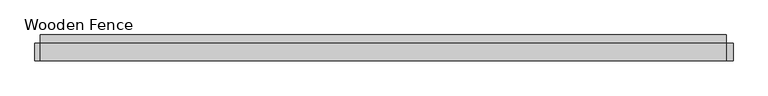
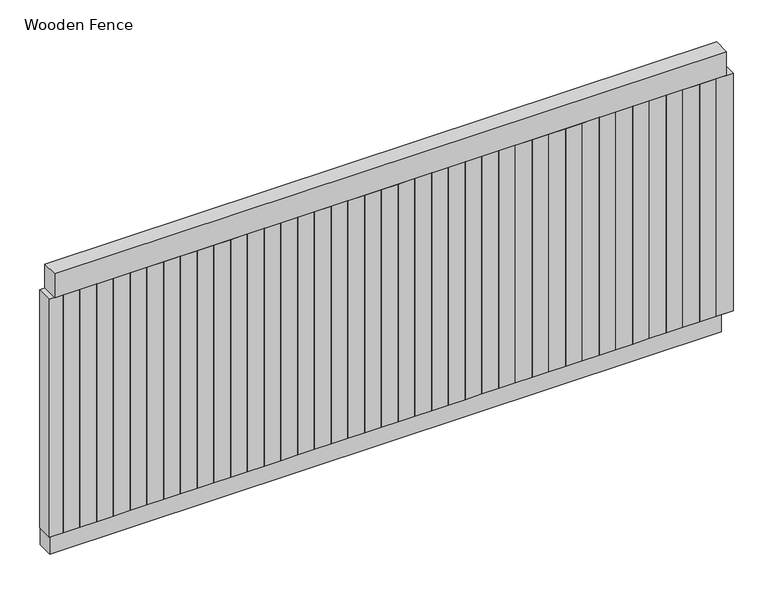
"""IFC4 building model written with IfcOpenShell, lengths in millimetres: railing geometry, Wooden Fence."""

from ifc_helpers import new_model, si_unit, frame, origin, place, context, project, spatial, polyline, outline, extrude, source, transform, mapped, element, save


def wooden_fence_12f1ab6c(model_context):
    return source(origin(), model_context, "Body", "SweptSolid", [
        extrude(outline(polyline([(8327.8839708, 3382.9935985), (8327.8839708, 3433.7935985), (10364.6464708, 3433.7935985), (10364.6464708, 3382.9935985), (8327.8839708, 3382.9935985)])), frame((0.0, 0.0, -50.8), z_axis=(0.0, 0.0, 1.0), x_axis=(1.0, 0.0, 0.0)), (0.0, 0.0, 1.0), 76.2),
        extrude(outline(polyline([(8327.8839708, 3357.5935985), (8327.8839708, 3408.3935985), (10364.6464708, 3408.3935985), (10364.6464708, 3357.5935985), (8327.8839708, 3357.5935985)])), frame((0.0, 0.0, 787.4), z_axis=(0.0, 0.0, 1.0), x_axis=(1.0, 0.0, 0.0)), (0.0, 0.0, 1.0), 76.2),
        extrude(outline(polyline([(10334.4839708, 3357.5935985), (10334.4839708, 3408.3935985), (10385.2839708, 3408.3935985), (10385.2839708, 3357.5935985), (10334.4839708, 3357.5935985)])), frame((0.0, 0.0, 25.4), z_axis=(0.0, 0.0, 1.0), x_axis=(1.0, 0.0, 0.0)), (0.0, 0.0, 1.0), 762.0),
        extrude(outline(polyline([(10283.6839708, 3357.5935985), (10283.6839708, 3408.3935985), (10334.4839708, 3408.3935985), (10334.4839708, 3357.5935985), (10283.6839708, 3357.5935985)])), frame((0.0, 0.0, 25.4), z_axis=(0.0, 0.0, 1.0), x_axis=(1.0, 0.0, 0.0)), (0.0, 0.0, 1.0), 762.0),
        extrude(outline(polyline([(10232.8839708, 3357.5935985), (10232.8839708, 3408.3935985), (10283.6839708, 3408.3935985), (10283.6839708, 3357.5935985), (10232.8839708, 3357.5935985)])), frame((0.0, 0.0, 25.4), z_axis=(0.0, 0.0, 1.0), x_axis=(1.0, 0.0, 0.0)), (0.0, 0.0, 1.0), 762.0),
        extrude(outline(polyline([(10182.0839708, 3357.5935985), (10182.0839708, 3408.3935985), (10232.8839708, 3408.3935985), (10232.8839708, 3357.5935985), (10182.0839708, 3357.5935985)])), frame((0.0, 0.0, 25.4), z_axis=(0.0, 0.0, 1.0), x_axis=(1.0, 0.0, 0.0)), (0.0, 0.0, 1.0), 762.0),
        extrude(outline(polyline([(10131.2839708, 3357.5935985), (10131.2839708, 3408.3935985), (10182.0839708, 3408.3935985), (10182.0839708, 3357.5935985), (10131.2839708, 3357.5935985)])), frame((0.0, 0.0, 25.4), z_axis=(0.0, 0.0, 1.0), x_axis=(1.0, 0.0, 0.0)), (0.0, 0.0, 1.0), 762.0),
        extrude(outline(polyline([(10080.4839708, 3357.5935985), (10080.4839708, 3408.3935985), (10131.2839708, 3408.3935985), (10131.2839708, 3357.5935985), (10080.4839708, 3357.5935985)])), frame((0.0, 0.0, 25.4), z_axis=(0.0, 0.0, 1.0), x_axis=(1.0, 0.0, 0.0)), (0.0, 0.0, 1.0), 762.0),
        extrude(outline(polyline([(10029.6839708, 3357.5935985), (10029.6839708, 3408.3935985), (10080.4839708, 3408.3935985), (10080.4839708, 3357.5935985), (10029.6839708, 3357.5935985)])), frame((0.0, 0.0, 25.4), z_axis=(0.0, 0.0, 1.0), x_axis=(1.0, 0.0, 0.0)), (0.0, 0.0, 1.0), 762.0),
        extrude(outline(polyline([(9978.8839708, 3357.5935985), (9978.8839708, 3408.3935985), (10029.6839708, 3408.3935985), (10029.6839708, 3357.5935985), (9978.8839708, 3357.5935985)])), frame((0.0, 0.0, 25.4), z_axis=(0.0, 0.0, 1.0), x_axis=(1.0, 0.0, 0.0)), (0.0, 0.0, 1.0), 762.0),
        extrude(outline(polyline([(9928.0839708, 3357.5935985), (9928.0839708, 3408.3935985), (9978.8839708, 3408.3935985), (9978.8839708, 3357.5935985), (9928.0839708, 3357.5935985)])), frame((0.0, 0.0, 25.4), z_axis=(0.0, 0.0, 1.0), x_axis=(1.0, 0.0, 0.0)), (0.0, 0.0, 1.0), 762.0),
        extrude(outline(polyline([(9877.2839708, 3357.5935985), (9877.2839708, 3408.3935985), (9928.0839708, 3408.3935985), (9928.0839708, 3357.5935985), (9877.2839708, 3357.5935985)])), frame((0.0, 0.0, 25.4), z_axis=(0.0, 0.0, 1.0), x_axis=(1.0, 0.0, 0.0)), (0.0, 0.0, 1.0), 762.0),
        extrude(outline(polyline([(9826.4839708, 3357.5935985), (9826.4839708, 3408.3935985), (9877.2839708, 3408.3935985), (9877.2839708, 3357.5935985), (9826.4839708, 3357.5935985)])), frame((0.0, 0.0, 25.4), z_axis=(0.0, 0.0, 1.0), x_axis=(1.0, 0.0, 0.0)), (0.0, 0.0, 1.0), 762.0),
        extrude(outline(polyline([(9775.6839708, 3357.5935985), (9775.6839708, 3408.3935985), (9826.4839708, 3408.3935985), (9826.4839708, 3357.5935985), (9775.6839708, 3357.5935985)])), frame((0.0, 0.0, 25.4), z_axis=(0.0, 0.0, 1.0), x_axis=(1.0, 0.0, 0.0)), (0.0, 0.0, 1.0), 762.0),
        extrude(outline(polyline([(9724.8839708, 3357.5935985), (9724.8839708, 3408.3935985), (9775.6839708, 3408.3935985), (9775.6839708, 3357.5935985), (9724.8839708, 3357.5935985)])), frame((0.0, 0.0, 25.4), z_axis=(0.0, 0.0, 1.0), x_axis=(1.0, 0.0, 0.0)), (0.0, 0.0, 1.0), 762.0),
        extrude(outline(polyline([(9674.0839708, 3357.5935985), (9674.0839708, 3408.3935985), (9724.8839708, 3408.3935985), (9724.8839708, 3357.5935985), (9674.0839708, 3357.5935985)])), frame((0.0, 0.0, 25.4), z_axis=(0.0, 0.0, 1.0), x_axis=(1.0, 0.0, 0.0)), (0.0, 0.0, 1.0), 762.0),
        extrude(outline(polyline([(9623.2839708, 3357.5935985), (9623.2839708, 3408.3935985), (9674.0839708, 3408.3935985), (9674.0839708, 3357.5935985), (9623.2839708, 3357.5935985)])), frame((0.0, 0.0, 25.4), z_axis=(0.0, 0.0, 1.0), x_axis=(1.0, 0.0, 0.0)), (0.0, 0.0, 1.0), 762.0),
        extrude(outline(polyline([(9572.4839708, 3357.5935985), (9572.4839708, 3408.3935985), (9623.2839708, 3408.3935985), (9623.2839708, 3357.5935985), (9572.4839708, 3357.5935985)])), frame((0.0, 0.0, 25.4), z_axis=(0.0, 0.0, 1.0), x_axis=(1.0, 0.0, 0.0)), (0.0, 0.0, 1.0), 762.0),
        extrude(outline(polyline([(9521.6839708, 3357.5935985), (9521.6839708, 3408.3935985), (9572.4839708, 3408.3935985), (9572.4839708, 3357.5935985), (9521.6839708, 3357.5935985)])), frame((0.0, 0.0, 25.4), z_axis=(0.0, 0.0, 1.0), x_axis=(1.0, 0.0, 0.0)), (0.0, 0.0, 1.0), 762.0),
        extrude(outline(polyline([(9470.8839708, 3357.5935985), (9470.8839708, 3408.3935985), (9521.6839708, 3408.3935985), (9521.6839708, 3357.5935985), (9470.8839708, 3357.5935985)])), frame((0.0, 0.0, 25.4), z_axis=(0.0, 0.0, 1.0), x_axis=(1.0, 0.0, 0.0)), (0.0, 0.0, 1.0), 762.0),
        extrude(outline(polyline([(9420.0839708, 3357.5935985), (9420.0839708, 3408.3935985), (9470.8839708, 3408.3935985), (9470.8839708, 3357.5935985), (9420.0839708, 3357.5935985)])), frame((0.0, 0.0, 25.4), z_axis=(0.0, 0.0, 1.0), x_axis=(1.0, 0.0, 0.0)), (0.0, 0.0, 1.0), 762.0),
        extrude(outline(polyline([(9369.2839708, 3357.5935985), (9369.2839708, 3408.3935985), (9420.0839708, 3408.3935985), (9420.0839708, 3357.5935985), (9369.2839708, 3357.5935985)])), frame((0.0, 0.0, 25.4), z_axis=(0.0, 0.0, 1.0), x_axis=(1.0, 0.0, 0.0)), (0.0, 0.0, 1.0), 762.0),
        extrude(outline(polyline([(9318.4839708, 3357.5935985), (9318.4839708, 3408.3935985), (9369.2839708, 3408.3935985), (9369.2839708, 3357.5935985), (9318.4839708, 3357.5935985)])), frame((0.0, 0.0, 25.4), z_axis=(0.0, 0.0, 1.0), x_axis=(1.0, 0.0, 0.0)), (0.0, 0.0, 1.0), 762.0),
        extrude(outline(polyline([(9267.6839708, 3357.5935985), (9267.6839708, 3408.3935985), (9318.4839708, 3408.3935985), (9318.4839708, 3357.5935985), (9267.6839708, 3357.5935985)])), frame((0.0, 0.0, 25.4), z_axis=(0.0, 0.0, 1.0), x_axis=(1.0, 0.0, 0.0)), (0.0, 0.0, 1.0), 762.0),
        extrude(outline(polyline([(9216.8839708, 3357.5935985), (9216.8839708, 3408.3935985), (9267.6839708, 3408.3935985), (9267.6839708, 3357.5935985), (9216.8839708, 3357.5935985)])), frame((0.0, 0.0, 25.4), z_axis=(0.0, 0.0, 1.0), x_axis=(1.0, 0.0, 0.0)), (0.0, 0.0, 1.0), 762.0),
        extrude(outline(polyline([(9166.0839708, 3357.5935985), (9166.0839708, 3408.3935985), (9216.8839708, 3408.3935985), (9216.8839708, 3357.5935985), (9166.0839708, 3357.5935985)])), frame((0.0, 0.0, 25.4), z_axis=(0.0, 0.0, 1.0), x_axis=(1.0, 0.0, 0.0)), (0.0, 0.0, 1.0), 762.0),
        extrude(outline(polyline([(9115.2839708, 3357.5935985), (9115.2839708, 3408.3935985), (9166.0839708, 3408.3935985), (9166.0839708, 3357.5935985), (9115.2839708, 3357.5935985)])), frame((0.0, 0.0, 25.4), z_axis=(0.0, 0.0, 1.0), x_axis=(1.0, 0.0, 0.0)), (0.0, 0.0, 1.0), 762.0),
        extrude(outline(polyline([(9064.4839708, 3357.5935985), (9064.4839708, 3408.3935985), (9115.2839708, 3408.3935985), (9115.2839708, 3357.5935985), (9064.4839708, 3357.5935985)])), frame((0.0, 0.0, 25.4), z_axis=(0.0, 0.0, 1.0), x_axis=(1.0, 0.0, 0.0)), (0.0, 0.0, 1.0), 762.0),
        extrude(outline(polyline([(9013.6839708, 3357.5935985), (9013.6839708, 3408.3935985), (9064.4839708, 3408.3935985), (9064.4839708, 3357.5935985), (9013.6839708, 3357.5935985)])), frame((0.0, 0.0, 25.4), z_axis=(0.0, 0.0, 1.0), x_axis=(1.0, 0.0, 0.0)), (0.0, 0.0, 1.0), 762.0),
        extrude(outline(polyline([(8962.8839708, 3357.5935985), (8962.8839708, 3408.3935985), (9013.6839708, 3408.3935985), (9013.6839708, 3357.5935985), (8962.8839708, 3357.5935985)])), frame((0.0, 0.0, 25.4), z_axis=(0.0, 0.0, 1.0), x_axis=(1.0, 0.0, 0.0)), (0.0, 0.0, 1.0), 762.0),
        extrude(outline(polyline([(8912.0839708, 3357.5935985), (8912.0839708, 3408.3935985), (8962.8839708, 3408.3935985), (8962.8839708, 3357.5935985), (8912.0839708, 3357.5935985)])), frame((0.0, 0.0, 25.4), z_axis=(0.0, 0.0, 1.0), x_axis=(1.0, 0.0, 0.0)), (0.0, 0.0, 1.0), 762.0),
        extrude(outline(polyline([(8861.2839708, 3357.5935985), (8861.2839708, 3408.3935985), (8912.0839708, 3408.3935985), (8912.0839708, 3357.5935985), (8861.2839708, 3357.5935985)])), frame((0.0, 0.0, 25.4), z_axis=(0.0, 0.0, 1.0), x_axis=(1.0, 0.0, 0.0)), (0.0, 0.0, 1.0), 762.0),
        extrude(outline(polyline([(8810.4839708, 3357.5935985), (8810.4839708, 3408.3935985), (8861.2839708, 3408.3935985), (8861.2839708, 3357.5935985), (8810.4839708, 3357.5935985)])), frame((0.0, 0.0, 25.4), z_axis=(0.0, 0.0, 1.0), x_axis=(1.0, 0.0, 0.0)), (0.0, 0.0, 1.0), 762.0),
        extrude(outline(polyline([(8759.6839708, 3357.5935985), (8759.6839708, 3408.3935985), (8810.4839708, 3408.3935985), (8810.4839708, 3357.5935985), (8759.6839708, 3357.5935985)])), frame((0.0, 0.0, 25.4), z_axis=(0.0, 0.0, 1.0), x_axis=(1.0, 0.0, 0.0)), (0.0, 0.0, 1.0), 762.0),
        extrude(outline(polyline([(8708.8839708, 3357.5935985), (8708.8839708, 3408.3935985), (8759.6839708, 3408.3935985), (8759.6839708, 3357.5935985), (8708.8839708, 3357.5935985)])), frame((0.0, 0.0, 25.4), z_axis=(0.0, 0.0, 1.0), x_axis=(1.0, 0.0, 0.0)), (0.0, 0.0, 1.0), 762.0),
        extrude(outline(polyline([(8658.0839708, 3357.5935985), (8658.0839708, 3408.3935985), (8708.8839708, 3408.3935985), (8708.8839708, 3357.5935985), (8658.0839708, 3357.5935985)])), frame((0.0, 0.0, 25.4), z_axis=(0.0, 0.0, 1.0), x_axis=(1.0, 0.0, 0.0)), (0.0, 0.0, 1.0), 762.0),
        extrude(outline(polyline([(8607.2839708, 3357.5935985), (8607.2839708, 3408.3935985), (8658.0839708, 3408.3935985), (8658.0839708, 3357.5935985), (8607.2839708, 3357.5935985)])), frame((0.0, 0.0, 25.4), z_axis=(0.0, 0.0, 1.0), x_axis=(1.0, 0.0, 0.0)), (0.0, 0.0, 1.0), 762.0),
        extrude(outline(polyline([(8556.4839708, 3357.5935985), (8556.4839708, 3408.3935985), (8607.2839708, 3408.3935985), (8607.2839708, 3357.5935985), (8556.4839708, 3357.5935985)])), frame((0.0, 0.0, 25.4), z_axis=(0.0, 0.0, 1.0), x_axis=(1.0, 0.0, 0.0)), (0.0, 0.0, 1.0), 762.0),
        extrude(outline(polyline([(8505.6839708, 3357.5935985), (8505.6839708, 3408.3935985), (8556.4839708, 3408.3935985), (8556.4839708, 3357.5935985), (8505.6839708, 3357.5935985)])), frame((0.0, 0.0, 25.4), z_axis=(0.0, 0.0, 1.0), x_axis=(1.0, 0.0, 0.0)), (0.0, 0.0, 1.0), 762.0),
        extrude(outline(polyline([(8454.8839708, 3357.5935985), (8454.8839708, 3408.3935985), (8505.6839708, 3408.3935985), (8505.6839708, 3357.5935985), (8454.8839708, 3357.5935985)])), frame((0.0, 0.0, 25.4), z_axis=(0.0, 0.0, 1.0), x_axis=(1.0, 0.0, 0.0)), (0.0, 0.0, 1.0), 762.0),
        extrude(outline(polyline([(8404.0839708, 3357.5935985), (8404.0839708, 3408.3935985), (8454.8839708, 3408.3935985), (8454.8839708, 3357.5935985), (8404.0839708, 3357.5935985)])), frame((0.0, 0.0, 25.4), z_axis=(0.0, 0.0, 1.0), x_axis=(1.0, 0.0, 0.0)), (0.0, 0.0, 1.0), 762.0),
        extrude(outline(polyline([(8353.2839708, 3357.5935985), (8353.2839708, 3408.3935985), (8404.0839708, 3408.3935985), (8404.0839708, 3357.5935985), (8353.2839708, 3357.5935985)])), frame((0.0, 0.0, 25.4), z_axis=(0.0, 0.0, 1.0), x_axis=(1.0, 0.0, 0.0)), (0.0, 0.0, 1.0), 762.0),
        extrude(outline(polyline([(10329.7214708, 3357.5935985), (10329.7214708, 3408.3935985), (10380.5214708, 3408.3935985), (10380.5214708, 3357.5935985), (10329.7214708, 3357.5935985)])), frame((0.0, 0.0, 25.4), z_axis=(0.0, 0.0, 1.0), x_axis=(1.0, 0.0, 0.0)), (0.0, 0.0, 1.0), 762.0),
        extrude(outline(polyline([(8312.0089708, 3357.5935985), (8312.0089708, 3408.3935985), (8362.8089708, 3408.3935985), (8362.8089708, 3357.5935985), (8312.0089708, 3357.5935985)])), frame((0.0, 0.0, 25.4), z_axis=(0.0, 0.0, 1.0), x_axis=(1.0, 0.0, 0.0)), (0.0, 0.0, 1.0), 762.0),
    ])


if __name__ == "__main__":
    model = new_model("IFC4")
    model_context = context("Model", 3, world=origin())
    ifc_project = project(units=[si_unit("LENGTHUNIT", "METRE", prefix="MILLI")], contexts=[model_context])
    site = spatial("IfcSite", under=ifc_project)
    building = spatial("IfcBuilding", under=site)
    placement = place(None, origin())
    wooden_fence_shape = wooden_fence_12f1ab6c(model_context)
    element("IfcRailing", 1, ObjectType="Wooden Fence", at=placement, inside=building, context=model_context, shape_type="MappedRepresentation", body=[
        mapped(wooden_fence_shape, transform((0.0, 0.0, 0.0), x_axis=(1.0, 0.0, 0.0), y_axis=(0.0, 1.0, 0.0), z_axis=(0.0, 0.0, 1.0))),
    ])
    save(model, "model.ifc")
